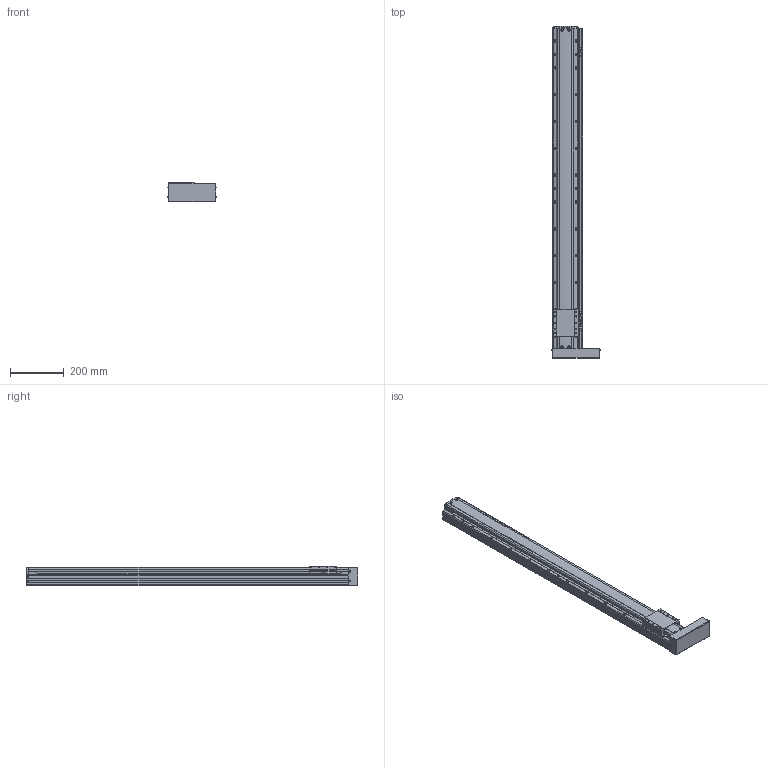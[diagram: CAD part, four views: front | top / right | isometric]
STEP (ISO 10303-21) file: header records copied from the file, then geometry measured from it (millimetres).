
FILE_DESCRIPTION(('STEP AP214'),'1');
FILE_NAME('Z:/Web/3D/PSA95/STP/PSA95-1000 (3D)/PSA95ㅁㅁ-1000PR+3SR.stp','2014-07-03T01:09:41',(' '),(' '),'Spatial InterOp 3D',' ',' ');
FILE_SCHEMA(('automotive_design'));
Length unit declared in the file: millimetre
Products named in the file (41): BASE; RRCV; 스크루 : Round - M4.0 x 10.0; 너트 : Square - M10.0 x 220.7419; RR1500; FRCV-090; 스크루 : Round - M4.0 x 6.0; SLBL-PA90; MOTOR PLATE COVER; 스크루 : Round - M3.0 x 6.0; EE-SX674; SBK-SX674-352; M3.0 x 6.0; SRL-16x17-380L; SGD-PA95; 스크루 : Round - M3.0 x 8.0
Bounding box: 179.13 x 1236.5 x 74 mm (x, y, z)
Volume: 6955702.5 mm3; surface area: 800660.4 mm2
Topology: 41 solids, 41 shells, 2492 faces, 6654 edges, 4262 vertices
Faces by surface type: plane 1416, cylinder 739, cone 237, sphere 62, bspline 24, torus 14
Entity records: 100052 total; most frequent: CARTESIAN_POINT 16636, DIRECTION 13248, ORIENTED_EDGE 13004, EDGE_CURVE 6502, AXIS2_PLACEMENT_3D 4428, LINE 4392, VECTOR 4392, VERTEX_POINT 4262
